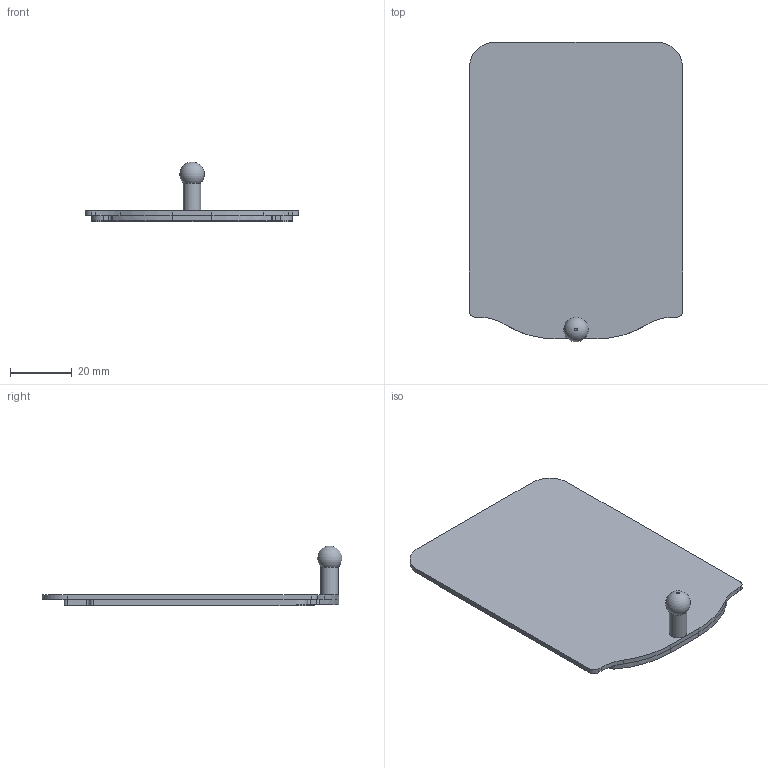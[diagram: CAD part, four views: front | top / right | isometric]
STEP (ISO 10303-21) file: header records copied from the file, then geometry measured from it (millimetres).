
FILE_DESCRIPTION(/* description */ (''),/* implementation_level */ '2;1');
FILE_NAME(/* name */ 'LA-3061-3337-B.stp',/* time_stamp */ '2018-10-04T08:23:00+01:00',/* author */ (''),/* organization */ (''),/* preprocessor_version */ 'ST-DEVELOPER v16',/* originating_system */ 'SIEMENS PLM Software NX 10.0',/* authorisation */ '');
FILE_SCHEMA (('AUTOMOTIVE_DESIGN { 1 0 10303 214 3 1 1 1 }'));
Length unit declared in the file: millimetre
Products named in the file (1): LA-3061-3337_B
Bounding box: 68.9 x 96.97 x 19.4 mm (x, y, z)
Volume: 21007.1 mm3; surface area: 14146.9 mm2
Topology: 1 solids, 1 shells, 55 faces, 147 edges, 94 vertices
Faces by surface type: cylinder 27, plane 26, cone 1, sphere 1
Full cylindrical faces by diameter (mm): 5.6 x1
Entity records: 1971 total; most frequent: DIRECTION 306, CARTESIAN_POINT 300, ORIENTED_EDGE 284, EDGE_CURVE 142, AXIS2_PLACEMENT_3D 111, VERTEX_POINT 93, LINE 84, VECTOR 84
